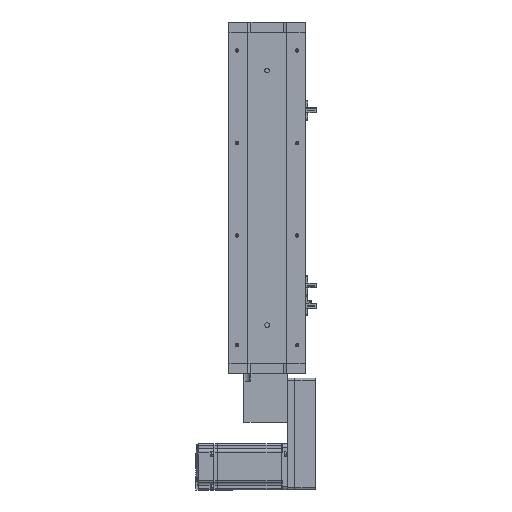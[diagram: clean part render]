
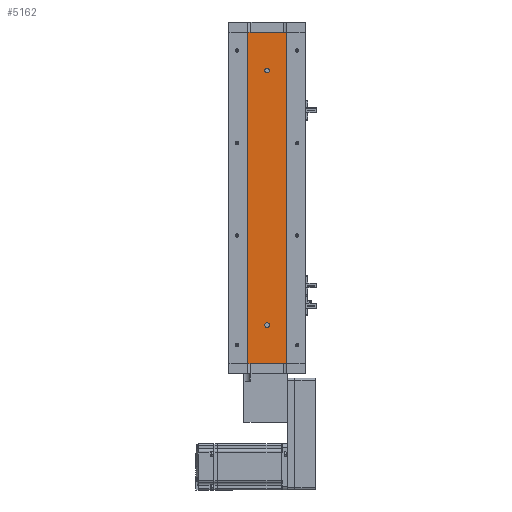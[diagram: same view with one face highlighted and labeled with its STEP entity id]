
A CAD part, left-side view. The second image highlights one B-rep face of the part: STEP entity #5162.
In plain terms, the highlighted planar face has unit normal (-1, 0, 0).
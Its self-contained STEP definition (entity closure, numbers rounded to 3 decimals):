
#348 = CIRCLE ( 'NONE', #30910, 3. ) ;
#1898 = VECTOR ( 'NONE', #24220, 1000. ) ;
#3243 = CARTESIAN_POINT ( 'NONE',  ( -18.926, 0., 380. ) ) ;
#3370 = CARTESIAN_POINT ( 'NONE',  ( -18.926, -24.785, 430. ) ) ;
#3499 = ORIENTED_EDGE ( 'NONE', *, *, #15687, .F. ) ;
#3933 = VERTEX_POINT ( 'NONE', #11318 ) ;
#5162 = ADVANCED_FACE ( 'NONE', ( #57352, #9952, #58852 ), #28803, .F. ) ;
#5368 = CIRCLE ( 'NONE', #18674, 3. ) ;
#5914 = VERTEX_POINT ( 'NONE', #48419 ) ;
#5988 = CARTESIAN_POINT ( 'NONE',  ( -18.926, 24.785, 430. ) ) ;
#6402 = CARTESIAN_POINT ( 'NONE',  ( -18.926, 0., 377. ) ) ;
#7990 = DIRECTION ( 'NONE',  ( 0., 0., 1. ) ) ;
#9031 = EDGE_LOOP ( 'NONE', ( #33850, #32514, #15908, #29291 ) ) ;
#9952 = FACE_BOUND ( 'NONE', #54027, .T. ) ;
#11206 = VERTEX_POINT ( 'NONE', #5988 ) ;
#11318 = CARTESIAN_POINT ( 'NONE',  ( -18.926, 0., 383. ) ) ;
#12437 = VERTEX_POINT ( 'NONE', #6402 ) ;
#12900 = DIRECTION ( 'NONE',  ( 0., 0., -1. ) ) ;
#14609 = VERTEX_POINT ( 'NONE', #21044 ) ;
#14758 = CARTESIAN_POINT ( 'NONE',  ( -18.926, 24.785, 0. ) ) ;
#15494 = EDGE_CURVE ( 'NONE', #14609, #57989, #17950, .T. ) ;
#15687 = EDGE_CURVE ( 'NONE', #52812, #22015, #17186, .T. ) ;
#15908 = ORIENTED_EDGE ( 'NONE', *, *, #57462, .F. ) ;
#16702 = DIRECTION ( 'NONE',  ( -1., 0., 0. ) ) ;
#17186 = CIRCLE ( 'NONE', #34767, 3. ) ;
#17950 = LINE ( 'NONE', #14758, #30493 ) ;
#18267 = ORIENTED_EDGE ( 'NONE', *, *, #51620, .F. ) ;
#18533 = CARTESIAN_POINT ( 'NONE',  ( -18.926, 0., 380. ) ) ;
#18674 = AXIS2_PLACEMENT_3D ( 'NONE', #3243, #36313, #7990 ) ;
#19507 = CARTESIAN_POINT ( 'NONE',  ( -18.926, 24.785, 430. ) ) ;
#19936 = EDGE_CURVE ( 'NONE', #5914, #57989, #43004, .T. ) ;
#21044 = CARTESIAN_POINT ( 'NONE',  ( -18.926, 24.785, 0. ) ) ;
#22015 = VERTEX_POINT ( 'NONE', #39805 ) ;
#22110 = ORIENTED_EDGE ( 'NONE', *, *, #29255, .F. ) ;
#22269 = CARTESIAN_POINT ( 'NONE',  ( -18.926, 0., 50. ) ) ;
#22970 = DIRECTION ( 'NONE',  ( 0., 0., -1. ) ) ;
#23314 = DIRECTION ( 'NONE',  ( 0., 0., 1. ) ) ;
#24220 = DIRECTION ( 'NONE',  ( 0., -1., 0. ) ) ;
#24257 = DIRECTION ( 'NONE',  ( 0., 0., -1. ) ) ;
#27000 = DIRECTION ( 'NONE',  ( 0., 0., 1. ) ) ;
#27958 = AXIS2_PLACEMENT_3D ( 'NONE', #19507, #52617, #24257 ) ;
#28665 = ORIENTED_EDGE ( 'NONE', *, *, #60666, .F. ) ;
#28803 = PLANE ( 'NONE',  #27958 ) ;
#28884 = CARTESIAN_POINT ( 'NONE',  ( -18.926, -24.785, 0. ) ) ;
#29255 = EDGE_CURVE ( 'NONE', #12437, #3933, #42754, .T. ) ;
#29291 = ORIENTED_EDGE ( 'NONE', *, *, #60238, .T. ) ;
#30493 = VECTOR ( 'NONE', #43065, 1000. ) ;
#30910 = AXIS2_PLACEMENT_3D ( 'NONE', #45054, #16702, #49837 ) ;
#31353 = LINE ( 'NONE', #46564, #42462 ) ;
#32514 = ORIENTED_EDGE ( 'NONE', *, *, #19936, .F. ) ;
#33850 = ORIENTED_EDGE ( 'NONE', *, *, #15494, .T. ) ;
#34767 = AXIS2_PLACEMENT_3D ( 'NONE', #22269, #55343, #27000 ) ;
#36313 = DIRECTION ( 'NONE',  ( -1., 0., 0. ) ) ;
#36383 = CARTESIAN_POINT ( 'NONE',  ( -18.926, 0., 47. ) ) ;
#39805 = CARTESIAN_POINT ( 'NONE',  ( -18.926, 0., 53. ) ) ;
#42462 = VECTOR ( 'NONE', #22970, 1000. ) ;
#42754 = CIRCLE ( 'NONE', #44796, 3. ) ;
#43004 = LINE ( 'NONE', #3370, #55609 ) ;
#43065 = DIRECTION ( 'NONE',  ( 0., -1., 0. ) ) ;
#44796 = AXIS2_PLACEMENT_3D ( 'NONE', #18533, #51675, #23314 ) ;
#45054 = CARTESIAN_POINT ( 'NONE',  ( -18.926, 0., 50. ) ) ;
#46564 = CARTESIAN_POINT ( 'NONE',  ( -18.926, 24.785, 430. ) ) ;
#48419 = CARTESIAN_POINT ( 'NONE',  ( -18.926, -24.785, 430. ) ) ;
#49837 = DIRECTION ( 'NONE',  ( 0., 0., 1. ) ) ;
#51620 = EDGE_CURVE ( 'NONE', #22015, #52812, #348, .T. ) ;
#51675 = DIRECTION ( 'NONE',  ( -1., 0., 0. ) ) ;
#52276 = LINE ( 'NONE', #52571, #1898 ) ;
#52571 = CARTESIAN_POINT ( 'NONE',  ( -18.926, 24.785, 430. ) ) ;
#52617 = DIRECTION ( 'NONE',  ( 1., 0., 0. ) ) ;
#52812 = VERTEX_POINT ( 'NONE', #36383 ) ;
#54027 = EDGE_LOOP ( 'NONE', ( #28665, #22110 ) ) ;
#55343 = DIRECTION ( 'NONE',  ( -1., 0., 0. ) ) ;
#55609 = VECTOR ( 'NONE', #12900, 1000. ) ;
#56422 = EDGE_LOOP ( 'NONE', ( #18267, #3499 ) ) ;
#57352 = FACE_BOUND ( 'NONE', #56422, .T. ) ;
#57462 = EDGE_CURVE ( 'NONE', #11206, #5914, #52276, .T. ) ;
#57989 = VERTEX_POINT ( 'NONE', #28884 ) ;
#58852 = FACE_OUTER_BOUND ( 'NONE', #9031, .T. ) ;
#60238 = EDGE_CURVE ( 'NONE', #11206, #14609, #31353, .T. ) ;
#60666 = EDGE_CURVE ( 'NONE', #3933, #12437, #5368, .T. ) ;
